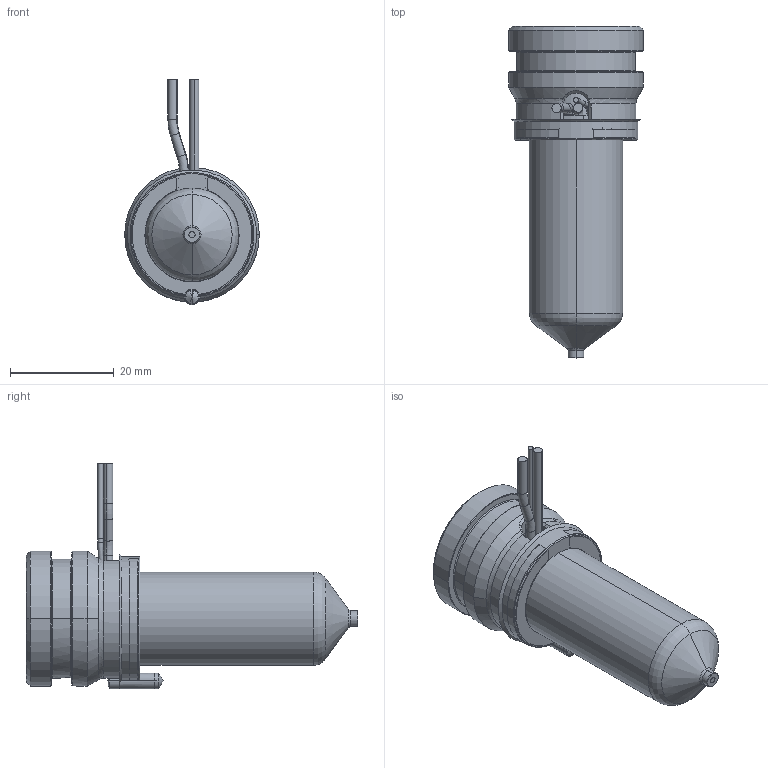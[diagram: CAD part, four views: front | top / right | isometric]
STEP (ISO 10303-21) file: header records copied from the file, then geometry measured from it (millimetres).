
FILE_DESCRIPTION((''),'2;1');
FILE_NAME('MPN-08-24-VP3-046-A','2026-02-05T12:01:07',('UPTIO'),('Thermoplay S.p.A.'),'CREO PARAMETRIC BY PTC INC, 2023494','CREO PARAMETRIC BY PTC INC, 2023494','');
FILE_SCHEMA(('CONFIG_CONTROL_DESIGN','SHAPE_APPEARANCE_LAYERS_GROUPS'));
Length unit declared in the file: millimetre
Products named in the file (1): MPN-08-24-VP3-046-A
Bounding box: 26 x 64.1 x 43.5 mm (x, y, z)
Volume: 14521.4 mm3; surface area: 16769.2 mm2
Topology: 2 solids, 3 shells, 565 faces, 1512 edges, 944 vertices
Faces by surface type: cylinder 184, plane 134, bspline 99, cone 68, torus 66, sphere 8, extrusion 6
Entity records: 30948 total; most frequent: CARTESIAN_POINT 14317, ORIENTED_EDGE 3008, DIRECTION 2627, EDGE_CURVE 1504, AXIS2_PLACEMENT_3D 1027, VERTEX_POINT 944, EDGE_LOOP 592, VECTOR 573
